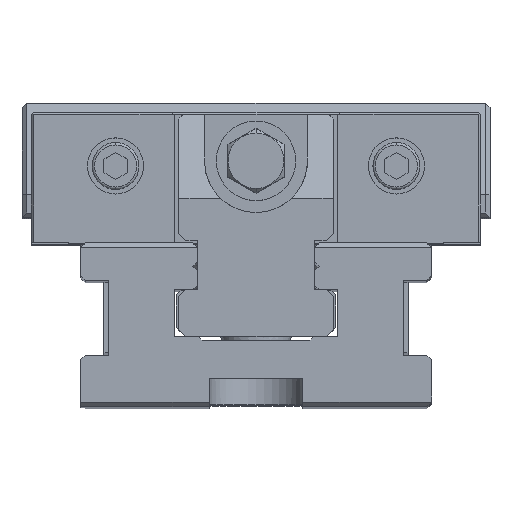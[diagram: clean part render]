
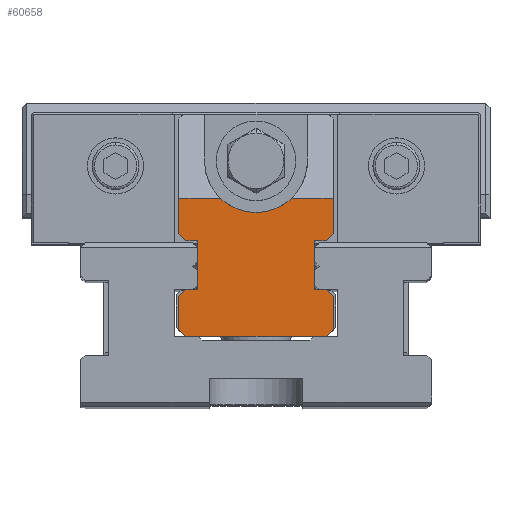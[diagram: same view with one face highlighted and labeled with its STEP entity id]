
A CAD part, top view. The second image highlights one B-rep face of the part: STEP entity #60658.
In plain terms, the highlighted planar face has unit normal (0, 0, 1) as drawn and (0, 0, -1) by its records, which use the part's own axes.
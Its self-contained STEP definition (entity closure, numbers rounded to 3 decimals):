
#48894=DIRECTION('',(0.707,-0.707,0.));
#48895=VECTOR('',#48894,2.121);
#48896=CARTESIAN_POINT('',(35.597,10.,-45.892));
#48897=LINE('',#48896,#48895);
#48898=DIRECTION('',(-0.707,-0.707,0.));
#48899=VECTOR('',#48898,2.121);
#48900=CARTESIAN_POINT('',(37.097,22.,-45.892));
#48901=LINE('',#48900,#48899);
#48902=CARTESIAN_POINT('',(20.597,37.5,-45.892));
#48903=DIRECTION('',(0.,0.,1.));
#48904=DIRECTION('',(-0.686,-0.727,0.));
#48905=AXIS2_PLACEMENT_3D('',#48902,#48903,#48904);
#48907=DIRECTION('',(-0.707,0.707,0.));
#48908=VECTOR('',#48907,2.121);
#48909=CARTESIAN_POINT('',(5.597,20.5,-45.892));
#48910=LINE('',#48909,#48908);
#48911=DIRECTION('',(0.707,0.707,0.));
#48912=VECTOR('',#48911,2.121);
#48913=CARTESIAN_POINT('',(4.097,8.5,-45.892));
#48914=LINE('',#48913,#48912);
#48915=DIRECTION('',(-0.707,0.707,0.));
#48916=VECTOR('',#48915,2.121);
#48917=CARTESIAN_POINT('',(5.597,0.,-45.892));
#48918=LINE('',#48917,#48916);
#48919=DIRECTION('',(-0.707,-0.707,0.));
#48920=VECTOR('',#48919,2.121);
#48921=CARTESIAN_POINT('',(37.097,1.5,-45.892));
#48922=LINE('',#48921,#48920);
#48927=DIRECTION('',(0.,1.,0.));
#48928=VECTOR('',#48927,7.);
#48929=CARTESIAN_POINT('',(37.097,1.5,-45.892));
#48930=LINE('',#48929,#48928);
#59233=DIRECTION('',(-1.,0.,0.));
#59234=VECTOR('',#59233,8.95);
#59235=CARTESIAN_POINT('',(13.048,29.5,-45.892));
#59236=LINE('',#59235,#59234);
#59265=DIRECTION('',(-1.,0.,0.));
#59266=VECTOR('',#59265,8.95);
#59267=CARTESIAN_POINT('',(37.097,29.5,-45.892));
#59268=LINE('',#59267,#59266);
#59273=DIRECTION('',(0.,1.,0.));
#59274=VECTOR('',#59273,7.5);
#59275=CARTESIAN_POINT('',(37.097,22.,-45.892));
#59276=LINE('',#59275,#59274);
#59586=DIRECTION('',(0.,-1.,0.));
#59587=VECTOR('',#59586,7.5);
#59588=CARTESIAN_POINT('',(4.097,29.5,-45.892));
#59589=LINE('',#59588,#59587);
#59598=DIRECTION('',(1.,0.,0.));
#59599=VECTOR('',#59598,2.5);
#59600=CARTESIAN_POINT('',(5.597,20.5,-45.892));
#59601=LINE('',#59600,#59599);
#59610=DIRECTION('',(0.,-1.,0.));
#59611=VECTOR('',#59610,10.5);
#59612=CARTESIAN_POINT('',(8.097,20.5,-45.892));
#59613=LINE('',#59612,#59611);
#59618=DIRECTION('',(-1.,0.,0.));
#59619=VECTOR('',#59618,2.5);
#59620=CARTESIAN_POINT('',(8.097,10.,-45.892));
#59621=LINE('',#59620,#59619);
#59626=DIRECTION('',(0.,-1.,0.));
#59627=VECTOR('',#59626,7.);
#59628=CARTESIAN_POINT('',(4.097,8.5,-45.892));
#59629=LINE('',#59628,#59627);
#59652=DIRECTION('',(1.,0.,0.));
#59653=VECTOR('',#59652,30.);
#59654=CARTESIAN_POINT('',(5.597,0.,-45.892));
#59655=LINE('',#59654,#59653);
#59702=DIRECTION('',(1.,0.,0.));
#59703=VECTOR('',#59702,2.5);
#59704=CARTESIAN_POINT('',(33.097,20.5,-45.892));
#59705=LINE('',#59704,#59703);
#59710=DIRECTION('',(0.,1.,0.));
#59711=VECTOR('',#59710,10.5);
#59712=CARTESIAN_POINT('',(33.097,10.,-45.892));
#59713=LINE('',#59712,#59711);
#59718=DIRECTION('',(-1.,0.,0.));
#59719=VECTOR('',#59718,2.5);
#59720=CARTESIAN_POINT('',(35.597,10.,-45.892));
#59721=LINE('',#59720,#59719);
#59770=CARTESIAN_POINT('',(35.597,10.,-45.892));
#59771=CARTESIAN_POINT('',(37.097,8.5,-45.892));
#59772=VERTEX_POINT('',#59770);
#59773=VERTEX_POINT('',#59771);
#59774=CARTESIAN_POINT('',(33.097,10.,-45.892));
#59775=VERTEX_POINT('',#59774);
#59776=CARTESIAN_POINT('',(33.097,20.5,-45.892));
#59777=VERTEX_POINT('',#59776);
#59778=CARTESIAN_POINT('',(35.597,20.5,-45.892));
#59779=VERTEX_POINT('',#59778);
#59780=CARTESIAN_POINT('',(37.097,22.,-45.892));
#59781=VERTEX_POINT('',#59780);
#59782=CARTESIAN_POINT('',(37.097,29.5,-45.892));
#59783=VERTEX_POINT('',#59782);
#59784=CARTESIAN_POINT('',(28.147,29.5,-45.892));
#59785=VERTEX_POINT('',#59784);
#59786=CARTESIAN_POINT('',(13.048,29.5,-45.892));
#59787=VERTEX_POINT('',#59786);
#59788=CARTESIAN_POINT('',(4.097,29.5,-45.892));
#59789=VERTEX_POINT('',#59788);
#59790=CARTESIAN_POINT('',(4.097,22.,-45.892));
#59791=VERTEX_POINT('',#59790);
#59792=CARTESIAN_POINT('',(5.597,20.5,-45.892));
#59793=VERTEX_POINT('',#59792);
#59794=CARTESIAN_POINT('',(8.097,20.5,-45.892));
#59795=VERTEX_POINT('',#59794);
#59796=CARTESIAN_POINT('',(8.097,10.,-45.892));
#59797=VERTEX_POINT('',#59796);
#59798=CARTESIAN_POINT('',(5.597,10.,-45.892));
#59799=VERTEX_POINT('',#59798);
#59800=CARTESIAN_POINT('',(4.097,8.5,-45.892));
#59801=VERTEX_POINT('',#59800);
#59802=CARTESIAN_POINT('',(4.097,1.5,-45.892));
#59803=VERTEX_POINT('',#59802);
#59804=CARTESIAN_POINT('',(5.597,0.,-45.892));
#59805=VERTEX_POINT('',#59804);
#59806=CARTESIAN_POINT('',(35.597,0.,-45.892));
#59807=VERTEX_POINT('',#59806);
#59808=CARTESIAN_POINT('',(37.097,1.5,-45.892));
#59809=VERTEX_POINT('',#59808);
#60611=CARTESIAN_POINT('',(20.597,0.,-45.892));
#60612=DIRECTION('',(0.,0.,1.));
#60613=DIRECTION('',(1.,0.,0.));
#60614=AXIS2_PLACEMENT_3D('',#60611,#60612,#60613);
#60615=PLANE('',#60614);
#60617=ORIENTED_EDGE('',*,*,#60616,.T.);
#60619=ORIENTED_EDGE('',*,*,#60618,.F.);
#60621=ORIENTED_EDGE('',*,*,#60620,.T.);
#60623=ORIENTED_EDGE('',*,*,#60622,.T.);
#60625=ORIENTED_EDGE('',*,*,#60624,.T.);
#60627=ORIENTED_EDGE('',*,*,#60626,.F.);
#60629=ORIENTED_EDGE('',*,*,#60628,.T.);
#60631=ORIENTED_EDGE('',*,*,#60630,.T.);
#60633=ORIENTED_EDGE('',*,*,#60632,.F.);
#60635=ORIENTED_EDGE('',*,*,#60634,.T.);
#60637=ORIENTED_EDGE('',*,*,#60636,.T.);
#60639=ORIENTED_EDGE('',*,*,#60638,.F.);
#60641=ORIENTED_EDGE('',*,*,#60640,.T.);
#60643=ORIENTED_EDGE('',*,*,#60642,.T.);
#60645=ORIENTED_EDGE('',*,*,#60644,.T.);
#60647=ORIENTED_EDGE('',*,*,#60646,.F.);
#60649=ORIENTED_EDGE('',*,*,#60648,.T.);
#60651=ORIENTED_EDGE('',*,*,#60650,.F.);
#60653=ORIENTED_EDGE('',*,*,#60652,.T.);
#60655=ORIENTED_EDGE('',*,*,#60654,.F.);
#60656=EDGE_LOOP('',(#60617,#60619,#60621,#60623,#60625,#60627,#60629,#60631,
#60633,#60635,#60637,#60639,#60641,#60643,#60645,#60647,#60649,#60651,#60653,
#60655));
#60657=FACE_OUTER_BOUND('',#60656,.F.);
#60658=ADVANCED_FACE('',(#60657),#60615,.F.);
#48906=CIRCLE('',#48905,11.);
#60616=EDGE_CURVE('',#59809,#59773,#48930,.T.);
#60618=EDGE_CURVE('',#59772,#59773,#48897,.T.);
#60620=EDGE_CURVE('',#59772,#59775,#59721,.T.);
#60622=EDGE_CURVE('',#59775,#59777,#59713,.T.);
#60624=EDGE_CURVE('',#59777,#59779,#59705,.T.);
#60626=EDGE_CURVE('',#59781,#59779,#48901,.T.);
#60628=EDGE_CURVE('',#59781,#59783,#59276,.T.);
#60630=EDGE_CURVE('',#59783,#59785,#59268,.T.);
#60632=EDGE_CURVE('',#59787,#59785,#48906,.T.);
#60634=EDGE_CURVE('',#59787,#59789,#59236,.T.);
#60636=EDGE_CURVE('',#59789,#59791,#59589,.T.);
#60638=EDGE_CURVE('',#59793,#59791,#48910,.T.);
#60640=EDGE_CURVE('',#59793,#59795,#59601,.T.);
#60642=EDGE_CURVE('',#59795,#59797,#59613,.T.);
#60644=EDGE_CURVE('',#59797,#59799,#59621,.T.);
#60646=EDGE_CURVE('',#59801,#59799,#48914,.T.);
#60648=EDGE_CURVE('',#59801,#59803,#59629,.T.);
#60650=EDGE_CURVE('',#59805,#59803,#48918,.T.);
#60652=EDGE_CURVE('',#59805,#59807,#59655,.T.);
#60654=EDGE_CURVE('',#59809,#59807,#48922,.T.);
